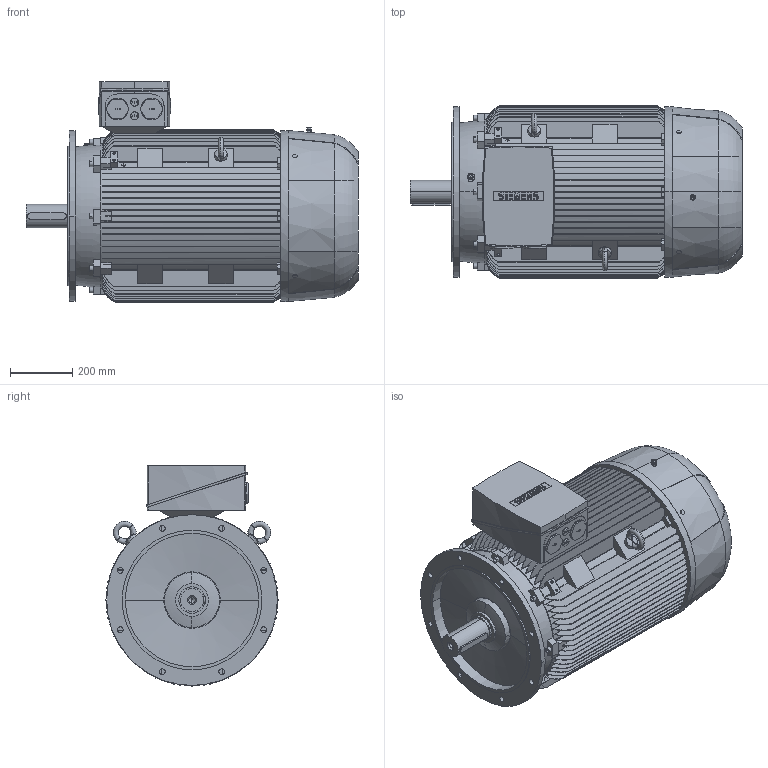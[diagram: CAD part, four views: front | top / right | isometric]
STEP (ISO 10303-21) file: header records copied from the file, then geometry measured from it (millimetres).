
FILE_DESCRIPTION(('STEP AP214'),'1');
FILE_NAME('cctmp_3D9493DD-18D1-4A06-8F1C-B447CBCAF5B9_2020_7_1_13_39_9_791..stp','2020-07-01T11:39:11',('SIEMENS A&D'),('CADClick - www.CADClick.com'),'Spatial InterOp 3D',' ','unknown authorization');
FILE_SCHEMA(('AUTOMOTIVE_DESIGN'));
Length unit declared in the file: millimetre
Products named in the file (1): 1
Bounding box: 1070 x 556 x 711 mm (x, y, z)
Volume: 182367166.6 mm3; surface area: 5927756.4 mm2
Topology: 4 solids, 4 shells, 1238 faces, 3420 edges, 2252 vertices
Faces by surface type: plane 745, cylinder 291, torus 174, cone 28
Entity records: 61661 total; most frequent: CARTESIAN_POINT 20732, ORIENTED_EDGE 6828, DIRECTION 5947, EDGE_CURVE 3414, VERTEX_POINT 2252, LINE 2065, VECTOR 2065, AXIS2_PLACEMENT_3D 1941
